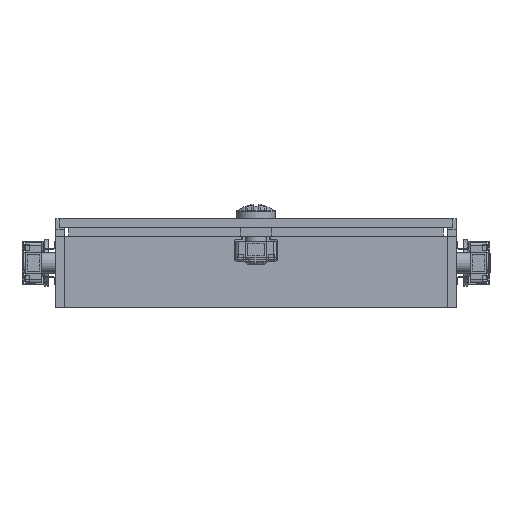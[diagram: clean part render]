
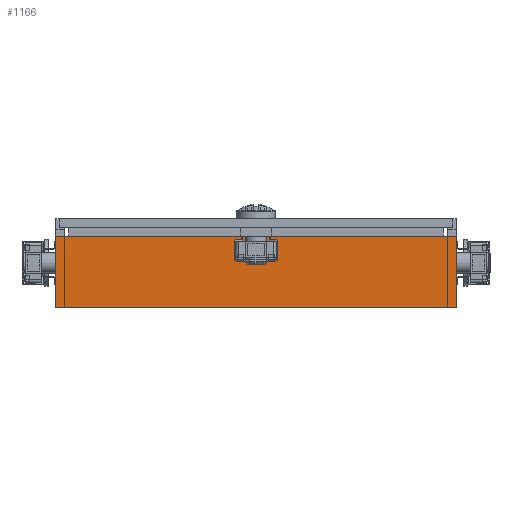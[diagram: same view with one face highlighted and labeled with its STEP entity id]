
A CAD part, front view. The second image highlights one B-rep face of the part: STEP entity #1166.
In plain terms, the highlighted planar face has unit normal (0, -1, 0) as drawn and (0, 1, 0) by its records, which use the part's own axes.
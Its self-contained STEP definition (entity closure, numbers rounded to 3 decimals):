
#1166 = ADVANCED_FACE('',(#1167),#1249,.F.);
#1167 = FACE_BOUND('',#1168,.T.);
#1168 = EDGE_LOOP('',(#1169,#1179,#1187,#1195,#1203,#1211,#1219,#1227,
    #1235,#1243));
#1169 = ORIENTED_EDGE('',*,*,#1170,.T.);
#1170 = EDGE_CURVE('',#1171,#1173,#1175,.T.);
#1171 = VERTEX_POINT('',#1172);
#1172 = CARTESIAN_POINT('',(53.4,0.,-10.));
#1173 = VERTEX_POINT('',#1174);
#1174 = CARTESIAN_POINT('',(52.75,0.,-10.));
#1175 = LINE('',#1176,#1177);
#1176 = CARTESIAN_POINT('',(-56.5,0.,-10.));
#1177 = VECTOR('',#1178,1.);
#1178 = DIRECTION('',(-1.,-0.,-0.));
#1179 = ORIENTED_EDGE('',*,*,#1180,.T.);
#1180 = EDGE_CURVE('',#1173,#1181,#1183,.T.);
#1181 = VERTEX_POINT('',#1182);
#1182 = CARTESIAN_POINT('',(-52.75,0.,-10.));
#1183 = LINE('',#1184,#1185);
#1184 = CARTESIAN_POINT('',(0.,0.,-10.));
#1185 = VECTOR('',#1186,1.);
#1186 = DIRECTION('',(-1.,-0.,0.));
#1187 = ORIENTED_EDGE('',*,*,#1188,.T.);
#1188 = EDGE_CURVE('',#1181,#1189,#1191,.T.);
#1189 = VERTEX_POINT('',#1190);
#1190 = CARTESIAN_POINT('',(-53.4,0.,-10.));
#1191 = LINE('',#1192,#1193);
#1192 = CARTESIAN_POINT('',(-56.5,0.,-10.));
#1193 = VECTOR('',#1194,1.);
#1194 = DIRECTION('',(-1.,-0.,-0.));
#1195 = ORIENTED_EDGE('',*,*,#1196,.T.);
#1196 = EDGE_CURVE('',#1189,#1197,#1199,.T.);
#1197 = VERTEX_POINT('',#1198);
#1198 = CARTESIAN_POINT('',(-56.5,-0.,-10.));
#1199 = LINE('',#1200,#1201);
#1200 = CARTESIAN_POINT('',(-53.4,0.,-10.));
#1201 = VECTOR('',#1202,1.);
#1202 = DIRECTION('',(-1.,-0.,-0.));
#1203 = ORIENTED_EDGE('',*,*,#1204,.F.);
#1204 = EDGE_CURVE('',#1205,#1197,#1207,.T.);
#1205 = VERTEX_POINT('',#1206);
#1206 = CARTESIAN_POINT('',(-56.5,0.,10.));
#1207 = LINE('',#1208,#1209);
#1208 = CARTESIAN_POINT('',(-56.5,-0.,0.));
#1209 = VECTOR('',#1210,1.);
#1210 = DIRECTION('',(-0.,-0.,-1.));
#1211 = ORIENTED_EDGE('',*,*,#1212,.F.);
#1212 = EDGE_CURVE('',#1213,#1205,#1215,.T.);
#1213 = VERTEX_POINT('',#1214);
#1214 = CARTESIAN_POINT('',(-53.4,0.,10.));
#1215 = LINE('',#1216,#1217);
#1216 = CARTESIAN_POINT('',(0.,0.,10.));
#1217 = VECTOR('',#1218,1.);
#1218 = DIRECTION('',(-1.,0.,-0.));
#1219 = ORIENTED_EDGE('',*,*,#1220,.T.);
#1220 = EDGE_CURVE('',#1213,#1221,#1223,.T.);
#1221 = VERTEX_POINT('',#1222);
#1222 = CARTESIAN_POINT('',(53.4,0.,10.));
#1223 = LINE('',#1224,#1225);
#1224 = CARTESIAN_POINT('',(-56.5,0.,10.));
#1225 = VECTOR('',#1226,1.);
#1226 = DIRECTION('',(1.,0.,0.));
#1227 = ORIENTED_EDGE('',*,*,#1228,.T.);
#1228 = EDGE_CURVE('',#1221,#1229,#1231,.T.);
#1229 = VERTEX_POINT('',#1230);
#1230 = CARTESIAN_POINT('',(56.5,0.,10.));
#1231 = LINE('',#1232,#1233);
#1232 = CARTESIAN_POINT('',(53.4,0.,10.));
#1233 = VECTOR('',#1234,1.);
#1234 = DIRECTION('',(1.,-0.,-0.));
#1235 = ORIENTED_EDGE('',*,*,#1236,.F.);
#1236 = EDGE_CURVE('',#1237,#1229,#1239,.T.);
#1237 = VERTEX_POINT('',#1238);
#1238 = CARTESIAN_POINT('',(56.5,0.,-10.));
#1239 = LINE('',#1240,#1241);
#1240 = CARTESIAN_POINT('',(56.5,0.,0.));
#1241 = VECTOR('',#1242,1.);
#1242 = DIRECTION('',(-0.,-0.,1.));
#1243 = ORIENTED_EDGE('',*,*,#1244,.F.);
#1244 = EDGE_CURVE('',#1171,#1237,#1245,.T.);
#1245 = LINE('',#1246,#1247);
#1246 = CARTESIAN_POINT('',(0.,0.,-10.));
#1247 = VECTOR('',#1248,1.);
#1248 = DIRECTION('',(1.,0.,0.));
#1249 = PLANE('',#1250);
#1250 = AXIS2_PLACEMENT_3D('',#1251,#1252,#1253);
#1251 = CARTESIAN_POINT('',(0.,0.,0.));
#1252 = DIRECTION('',(0.,-1.,0.));
#1253 = DIRECTION('',(0.,-0.,-1.));
